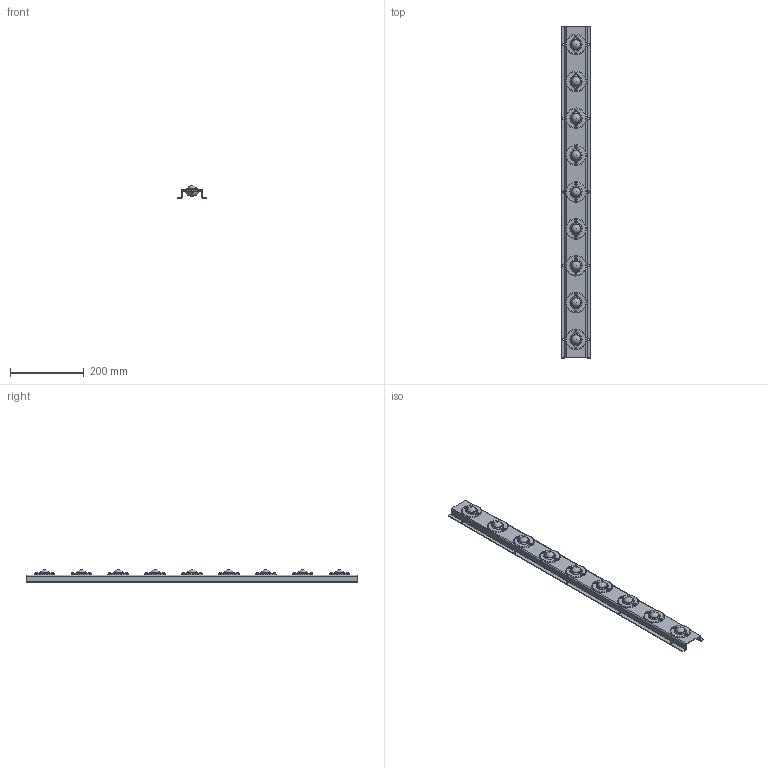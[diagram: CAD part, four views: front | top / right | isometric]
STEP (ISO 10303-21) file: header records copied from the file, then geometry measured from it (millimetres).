
FILE_DESCRIPTION(/* description */ (''),/* implementation_level */ '2;1');
FILE_NAME(/* name */ 'Z:\80-CAD共有ファイル\製品3D\X2\30C730FC30BF\X0\\B1-IBU\IBU-900-100.stp',/* time_stamp */ '2015-01-07T09:47:25+09:00',/* author */ ('yamaki'),/* organization */ (''),/* preprocessor_version */ 'ST-DEVELOPER v15.6',/* originating_system */ 'Autodesk Inventor 2015',/* authorisation */ '');
FILE_SCHEMA (('AUTOMOTIVE_DESIGN { 1 0 10303 214 3 1 1 }'));
Length unit declared in the file: millimetre
Products named in the file (5): B1A0AT-01; 3325AA; CTS40410; H0N10410; B1A0AA
Bounding box: 80 x 900 x 34.6 mm (x, y, z)
Volume: 385607 mm3; surface area: 256060.8 mm2
Topology: 46 solids, 46 shells, 1047 faces, 2366 edges, 1474 vertices
Faces by surface type: plane 489, cone 297, cylinder 171, sphere 45, torus 45
Full cylindrical faces by diameter (mm): 1.5 x9, 3.242 x18, 3.6 x18, 4 x18, 4.5 x36, 5.5 x10, 9.4 x18, 23.988 x9, 24.816 x9, 38 x9, 55.827 x9
Entity records: 4224 total; most frequent: DIRECTION 762, CARTESIAN_POINT 692, ORIENTED_EDGE 520, AXIS2_PLACEMENT_3D 336, EDGE_LOOP 284, EDGE_CURVE 260, VERTEX_POINT 194, CIRCLE 146
